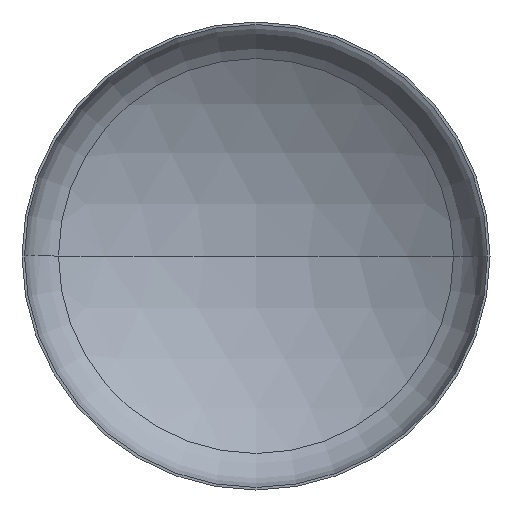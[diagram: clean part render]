
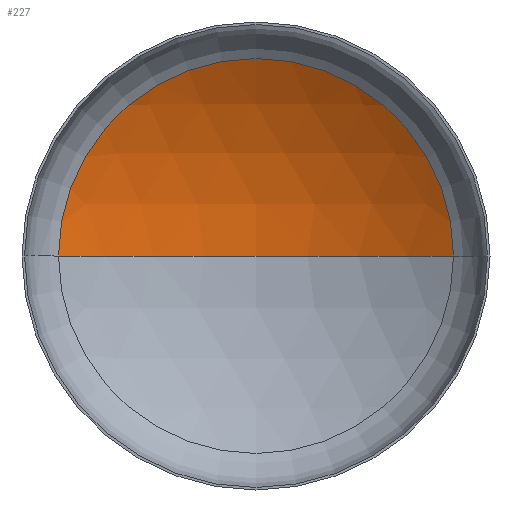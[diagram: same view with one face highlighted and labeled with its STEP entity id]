
A CAD part, front view. The second image highlights one B-rep face of the part: STEP entity #227.
In plain terms, the highlighted spherical face has radius 1040 mm.
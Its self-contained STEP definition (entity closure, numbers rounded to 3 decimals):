
#2 = AXIS2_PLACEMENT_3D ( 'NONE', #344, #197, #199 ) ;
#5 = AXIS2_PLACEMENT_3D ( 'NONE', #156, #408, #219 ) ;
#6 = CARTESIAN_POINT ( 'NONE',  ( 0., -688.688, 0. ) ) ;
#7 = AXIS2_PLACEMENT_3D ( 'NONE', #101, #122, #147 ) ;
#25 = DIRECTION ( 'NONE',  ( 0., 0., -1. ) ) ;
#26 = EDGE_LOOP ( 'NONE', ( #162, #115, #154 ) ) ;
#46 = AXIS2_PLACEMENT_3D ( 'NONE', #6, #25, #239 ) ;
#56 = VERTEX_POINT ( 'NONE', #260 ) ;
#76 = CIRCLE ( 'NONE', #5, 1040. ) ;
#101 = CARTESIAN_POINT ( 'NONE',  ( 0., -688.688, 0. ) ) ;
#115 = ORIENTED_EDGE ( 'NONE', *, *, #360, .T. ) ;
#116 = VERTEX_POINT ( 'NONE', #196 ) ;
#122 = DIRECTION ( 'NONE',  ( 0., 0., -1. ) ) ;
#125 = VERTEX_POINT ( 'NONE', #319 ) ;
#147 = DIRECTION ( 'NONE',  ( -1., 0., 0. ) ) ;
#154 = ORIENTED_EDGE ( 'NONE', *, *, #379, .T. ) ;
#156 = CARTESIAN_POINT ( 'NONE',  ( 0., -688.688, 0. ) ) ;
#162 = ORIENTED_EDGE ( 'NONE', *, *, #367, .F. ) ;
#196 = CARTESIAN_POINT ( 'NONE',  ( 0., 351.312, 0. ) ) ;
#197 = DIRECTION ( 'NONE',  ( 0., -1., 0. ) ) ;
#199 = DIRECTION ( 'NONE',  ( 1., 0., 0. ) ) ;
#219 = DIRECTION ( 'NONE',  ( 1., 0., 0. ) ) ;
#221 = FACE_OUTER_BOUND ( 'NONE', #26, .T. ) ;
#227 = ADVANCED_FACE ( 'NONE', ( #221 ), #361, .F. ) ;
#239 = DIRECTION ( 'NONE',  ( -1., 0., 0. ) ) ;
#260 = CARTESIAN_POINT ( 'NONE',  ( 548.476, 194.926, 0. ) ) ;
#309 = CIRCLE ( 'NONE', #7, 1040. ) ;
#319 = CARTESIAN_POINT ( 'NONE',  ( -548.476, 194.926, 0. ) ) ;
#344 = CARTESIAN_POINT ( 'NONE',  ( 0., 194.926, 0. ) ) ;
#360 = EDGE_CURVE ( 'NONE', #116, #56, #309, .T. ) ;
#361 = SPHERICAL_SURFACE ( 'NONE', #46, 1040. ) ;
#367 = EDGE_CURVE ( 'NONE', #116, #125, #76, .T. ) ;
#371 = CIRCLE ( 'NONE', #2, 548.476 ) ;
#379 = EDGE_CURVE ( 'NONE', #56, #125, #371, .T. ) ;
#408 = DIRECTION ( 'NONE',  ( 0., 0., 1. ) ) ;
